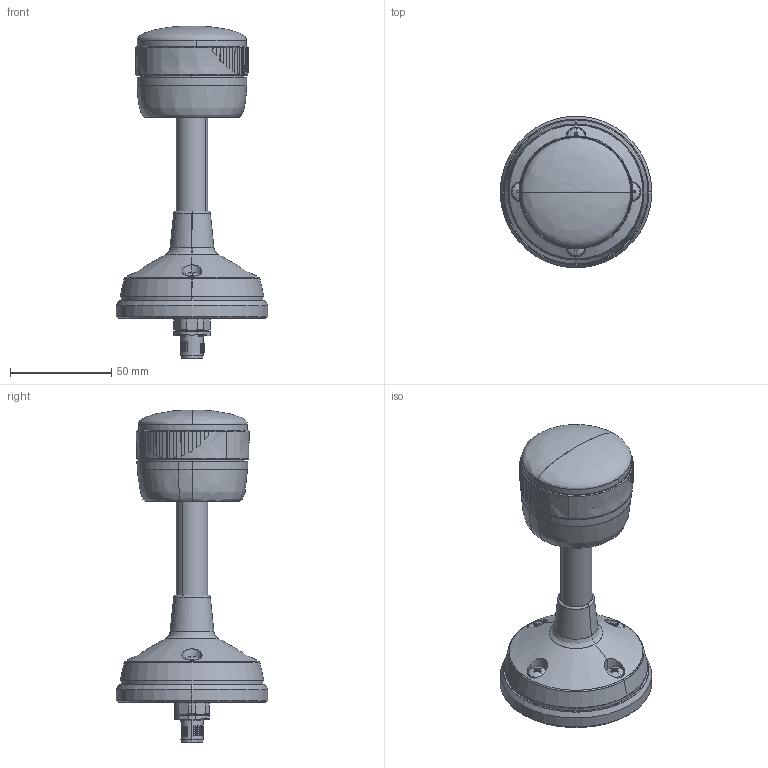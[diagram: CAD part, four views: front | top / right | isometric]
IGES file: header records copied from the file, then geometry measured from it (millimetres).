
Start section: SolidWorks IGES file using analytic representation for surfaces
Global section: file name: C:\Users\PDG_KS\OneDrive - Pfannenberg Group Holding GmbH\Home\BR50--M12\Daten\20230216_28250126010.IGS; native system: SolidWorks 2021; preprocessor: SolidWorks 2021; author: PDG_KS; date: 230216.112238; units: millimetre
Bounding box: 75 x 75 x 164.11 mm (x, y, z)
Surface area: 90129.3 mm2 (no closed solid volume)
Topology: 0 solids, 0 shells, 1466 faces, 15334 edges, 15264 vertices
Faces by surface type: bspline 1005, revolution 461
